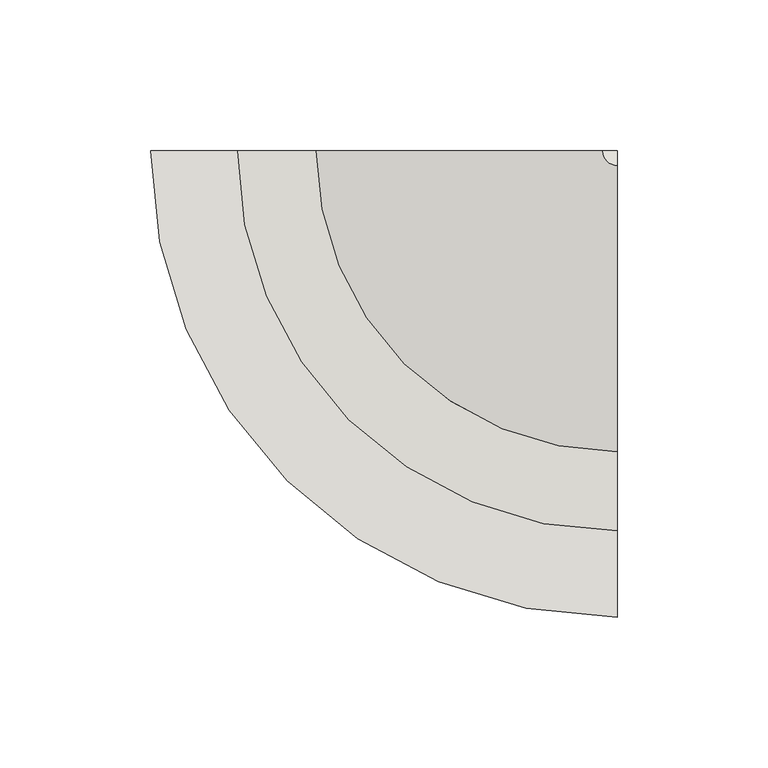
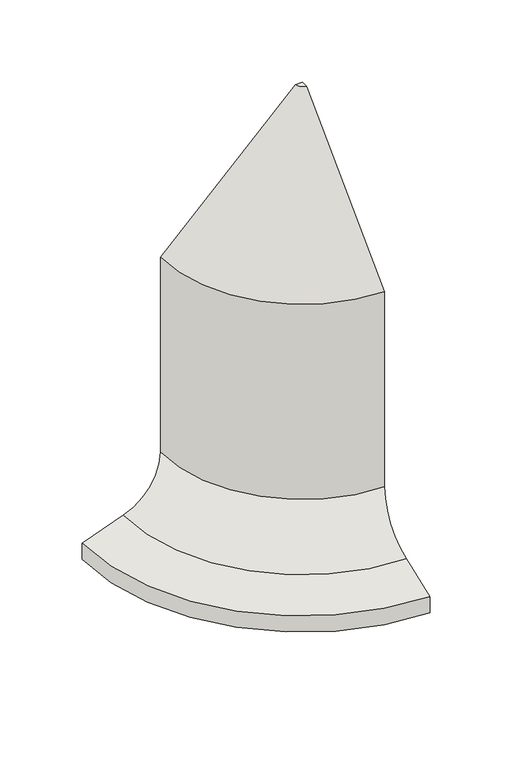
"""IFC4 building model written with IfcOpenShell, lengths in millimetres: wall geometry, GM_ST_UN_ACO kerb SS outside corner_ACO : S/S H300."""

import ifcopenshell
import ifcopenshell.guid

model = None  # the IFC model being written
_history = None  # IfcOwnerHistory: only IFC2X3 demands one
_inside = {}  # id of a spatial element -> (the spatial element, [elements in it])
_under = {}  # id of a project, library or spatial element -> (it, [spatial elements below it])
_declared = {}  # id of a project -> (the project, [libraries it declares])
_typed = {}  # id of a type object -> (the type object, [elements of that type])
_made_of = {}  # id of a material, layer set ... -> (it, [elements and type objects made of it])


def new_model(schema):
    """Start an empty IFC model of exactly this schema.

    Asked for "IFC4X3", IfcOpenShell would pick the latest addendum, in which some entities
    have other attributes; the version numbers below select the first issue.
    IFC2X3 requires an IfcOwnerHistory on every rooted entity: one is made here for all.
    """
    global model, _history
    if schema == "IFC4X3":
        model = ifcopenshell.file(schema_version=(4, 3, 0, 0))
    else:
        model = ifcopenshell.file(schema=schema)
    _inside.clear()
    _under.clear()
    _declared.clear()
    _typed.clear()
    _made_of.clear()
    _history = None
    if model.schema == "IFC2X3":
        org = make("IfcOrganization", Name="unknown")
        user = make(
            "IfcPersonAndOrganization",
            ThePerson=make("IfcPerson", FamilyName="unknown"),
            TheOrganization=org,
        )
        app = make(
            "IfcApplication",
            ApplicationDeveloper=org,
            Version="unknown",
            ApplicationFullName="unknown",
            ApplicationIdentifier="unknown",
        )
        _history = make(
            "IfcOwnerHistory",
            OwningUser=user,
            OwningApplication=app,
            ChangeAction="ADDED",
            CreationDate=0,
        )
    return model


def make(cls, **values):
    """One entity of the class cls with the attributes given. An attribute that is None is left unset."""
    return model.create_entity(
        cls, **{name: value for name, value in values.items() if value is not None}
    )


def rooted(cls, **values):
    """An entity with a GlobalId (a new one), such as an element, a storey or a relation."""
    return make(cls, GlobalId=ifcopenshell.guid.new(), OwnerHistory=_history, **values)


def si_unit(unit_type, name, prefix=None):
    """IfcSIUnit, for example si_unit("LENGTHUNIT", "METRE", prefix="MILLI")."""
    return make("IfcSIUnit", UnitType=unit_type, Prefix=prefix, Name=name)


def assignment(units):
    """IfcUnitAssignment: the units of a project."""
    return None if units is None else make("IfcUnitAssignment", Units=units)


def point(xyz):
    """IfcCartesianPoint."""
    return None if xyz is None else make("IfcCartesianPoint", Coordinates=xyz)


def direction(xyz):
    """IfcDirection."""
    return None if xyz is None else make("IfcDirection", DirectionRatios=xyz)


def frame(location, z_axis=None, x_axis=None):
    """IfcAxis2Placement3D, a coordinate frame: its origin and axes. An axis left out is left unset."""
    return make(
        "IfcAxis2Placement3D",
        Location=point(location),
        Axis=direction(z_axis),
        RefDirection=direction(x_axis),
    )


def origin():
    """The frame at (0, 0, 0) with its axes left unset."""
    return frame((0.0, 0.0, 0.0))


def place(relative_to, where):
    """IfcLocalPlacement: puts the frame where relative to a parent placement (None: the world)."""
    return make(
        "IfcLocalPlacement", PlacementRelTo=relative_to, RelativePlacement=where
    )


def context(
    kind, dimensions, precision=None, world=None, true_north=None, identifier=None
):
    """IfcGeometricRepresentationContext, for example the 3D "Model" context."""
    return make(
        "IfcGeometricRepresentationContext",
        ContextIdentifier=identifier,
        ContextType=kind,
        CoordinateSpaceDimension=dimensions,
        Precision=precision,
        WorldCoordinateSystem=world,
        TrueNorth=true_north,
    )


def project(units=None, contexts=None):
    """IfcProject with its units and contexts."""
    return rooted(
        "IfcProject",
        Name="project",
        RepresentationContexts=contexts,
        UnitsInContext=assignment(units),
    )


def spatial(cls, under=None, at=None, **own):
    """A site, building, storey or space (cls), placed at a placement, below another one or the project."""
    s = rooted(cls, ObjectPlacement=at, **own)
    if under is not None:
        _under.setdefault(under.id(), (under, []))[1].append(s)
    return s


def polyline(points):
    """IfcPolyline through the points."""
    return make("IfcPolyline", Points=[point(p) for p in points])


def circle_curve(where, radius):
    """IfcCircle in the frame where."""
    return make("IfcCircle", Position=where, Radius=radius)


def ellipse_curve(where, semi_axis1, semi_axis2):
    """IfcEllipse in the frame where."""
    return make(
        "IfcEllipse", Position=where, SemiAxis1=semi_axis1, SemiAxis2=semi_axis2
    )


def trimmed(basis, trim1, trim2, sense, master):
    """IfcTrimmedCurve: the piece of a basis curve between two trims."""
    return make(
        "IfcTrimmedCurve",
        BasisCurve=basis,
        Trim1=trim1,
        Trim2=trim2,
        SenseAgreement=sense,
        MasterRepresentation=master,
    )


def shape(context_of_items, identifier, shape_type, items):
    """IfcShapeRepresentation: the items that make up one representation, for example the "Body"."""
    return make(
        "IfcShapeRepresentation",
        ContextOfItems=context_of_items,
        RepresentationIdentifier=identifier,
        RepresentationType=shape_type,
        Items=items,
    )


def source(mapping_origin, context_of_items, identifier, shape_type, items):
    """IfcRepresentationMap: a shape defined once, which mapped items show again and again."""
    return make(
        "IfcRepresentationMap",
        MappingOrigin=mapping_origin,
        MappedRepresentation=shape(context_of_items, identifier, shape_type, items),
    )


def transform(
    local_origin,
    x_axis=None,
    y_axis=None,
    z_axis=None,
    scale=None,
    scale2=None,
    scale3=None,
    uniform=True,
):
    """IfcCartesianTransformationOperator3D, or its non-uniform kind. x_axis, y_axis, z_axis: its Axis1, 2, 3."""
    if uniform:
        return make(
            "IfcCartesianTransformationOperator3D",
            Axis1=direction(x_axis),
            Axis2=direction(y_axis),
            LocalOrigin=point(local_origin),
            Scale=scale,
            Axis3=direction(z_axis),
        )
    return make(
        "IfcCartesianTransformationOperator3DnonUniform",
        Axis1=direction(x_axis),
        Axis2=direction(y_axis),
        LocalOrigin=point(local_origin),
        Scale=scale,
        Axis3=direction(z_axis),
        Scale2=scale2,
        Scale3=scale3,
    )


def mapped(mapping_source, mapping_target):
    """IfcMappedItem: shows the shape of a source again, moved by a transform."""
    return make(
        "IfcMappedItem", MappingSource=mapping_source, MappingTarget=mapping_target
    )


def made_of(thing, what):
    """Note that an element or type object is made of a material, layer set ...; save() writes the relation."""
    if what is not None:
        _made_of.setdefault(what.id(), (what, []))[1].append(thing)
    return thing


def element(
    cls,
    number,
    at=None,
    inside=None,
    cuts=None,
    type_object=None,
    material=None,
    context=None,
    identifier="Body",
    shape_type=None,
    held_by="IfcProductDefinitionShape",
    body=None,
    shapes=None,
    **own,
):
    """One element of the class cls, such as IfcWall. Its Tag is "e" and its number.

    at: its placement. inside: the storey or other place that contains it. cuts: it is an
    opening in that element (IfcRelVoidsElement). A single representation is given by context,
    identifier, shape_type and body (its items); several are given by shapes. held_by: the class
    of the entity that holds the representations. save() writes the other relations.
    """
    e = rooted(cls, Tag="e%d" % number, ObjectPlacement=at, **own)
    if body is not None:
        shapes = [shape(context, identifier, shape_type, body)]
    if shapes is not None:
        e.Representation = make(held_by, Representations=shapes)
    if inside is not None:
        _inside.setdefault(inside.id(), (inside, []))[1].append(e)
    if cuts is not None:
        rooted(
            "IfcRelVoidsElement", RelatingBuildingElement=cuts, RelatedOpeningElement=e
        )
    if type_object is not None:
        _typed.setdefault(type_object.id(), (type_object, []))[1].append(e)
    return made_of(e, material)


def aggregate(whole, parts):
    """IfcRelAggregates: a whole, such as a stair, and the parts it consists of."""
    return rooted("IfcRelAggregates", RelatingObject=whole, RelatedObjects=parts)


def save(model, path):
    """Write the relations noted so far, then the file.

    IfcRelAggregates (storeys below a building ...), IfcRelContainedInSpatialStructure (elements
    in a storey), IfcRelDefinesByType, IfcRelAssociatesMaterial and IfcRelDeclares: one each for
    every whole, place, type object, material and project.
    """
    for whole, parts in _under.values():
        aggregate(whole, parts)
    for where, things in _inside.values():
        rooted(
            "IfcRelContainedInSpatialStructure",
            RelatedElements=things,
            RelatingStructure=where,
        )
    for kind, things in _typed.values():
        rooted("IfcRelDefinesByType", RelatedObjects=things, RelatingType=kind)
    for what, things in _made_of.values():
        rooted("IfcRelAssociatesMaterial", RelatedObjects=things, RelatingMaterial=what)
    for by, libraries in _declared.values():
        rooted("IfcRelDeclares", RelatingContext=by, RelatedDefinitions=libraries)
    model.write(path)


def plane_surface(at):
    """IfcPlane: the flat surface through the origin of the frame at, square to its z axis."""
    return make("IfcPlane", Position=at)


def cylinder_surface(at, radius):
    """IfcCylindricalSurface: all points at the distance radius from the z axis of the frame at."""
    return make("IfcCylindricalSurface", Position=at, Radius=radius)


def revolved_surface(curve, axis_point, axis_direction):
    """IfcSurfaceOfRevolution: the curve turned about the line through axis_point along axis_direction."""
    return make(
        "IfcSurfaceOfRevolution",
        SweptCurve=make("IfcArbitraryOpenProfileDef", ProfileType="CURVE", Curve=curve),
        AxisPosition=make("IfcAxis1Placement", Location=point(axis_point), Axis=direction(axis_direction)),
    )


def advanced_brep(points, edges, surfaces, faces):
    """IfcAdvancedBrep: a solid bounded by faces that lie on surfaces and meet in shared edges.

    An edge is (start, end): straight between two places in points (the first is 0);
    or (start, end, curve); or (start, end, curve, False) where it runs against its curve.
    A face is (place in surfaces, loops), or (place, loops, False) where it looks against
    its surface's normal. A loop lists edges by number (the first is 1), with a minus sign
    where the edge is run from its end to its start. The first loop is the outer one.
    """
    corners = [point(p) for p in points]
    vertices = [make("IfcVertexPoint", VertexGeometry=c) for c in corners]
    made = []
    for start, end, *more in edges:
        made.append(
            make(
                "IfcEdgeCurve",
                EdgeStart=vertices[start],
                EdgeEnd=vertices[end],
                EdgeGeometry=more[0] if more else make("IfcPolyline", Points=[corners[start], corners[end]]),
                SameSense=more[1] if len(more) > 1 else True,
            )
        )
    hull = []
    for where, loops, *sense in faces:
        bounds = []
        for j, loop in enumerate(loops):
            ring = [make("IfcOrientedEdge", EdgeElement=made[abs(k) - 1], Orientation=k > 0) for k in loop]
            bounds.append(
                make(
                    "IfcFaceOuterBound" if j == 0 else "IfcFaceBound",
                    Bound=make("IfcEdgeLoop", EdgeList=ring),
                    Orientation=True,
                )
            )
        hull.append(make("IfcAdvancedFace", Bounds=bounds, FaceSurface=surfaces[where], SameSense=sense[0] if sense else True))
    return make("IfcAdvancedBrep", Outer=make("IfcClosedShell", CfsFaces=hull))


def wall_866a5f13(model_context):
    return source(origin(), model_context, "Body", "AdvancedBrep", [
        advanced_brep(
        [(-154.9291966, 0.0, 0.0), (-154.9291966, 0.0, 11.977476), (-126.1987698, 0.0, 22.4886008), (-99.9420231, 0.0, 60.0535178), (-99.9420231, 0.0, 204.9637441), (-4.952669, 0.0, 299.9530982), (0.0, 0.0, 299.9530982), (0.0, 0.0, 0.0), (0.0, -154.9291966, 0.0), (0.0, -4.952669, 299.9530982), (0.0, -99.9420231, 204.9637441), (0.0, -99.9420231, 60.0535178), (0.0, -126.1987698, 22.4886008), (0.0, -154.9291966, 11.977476)],
        [
            (0, 1),
            (1, 2),
            (2, 3, circle_curve(frame((-139.9420231, 0.0, 60.0535178), z_axis=(0.0, -1.0000000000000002, 0.0), x_axis=(1.0000000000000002, 0.0, 0.0)), 40.0)),
            (3, 4),
            (4, 5),
            (5, 6),
            (6, 7),
            (7, 0),
            (8, 7),
            (6, 9),
            (9, 10),
            (10, 11),
            (11, 12, circle_curve(frame((0.0, -139.9420231, 60.0535178), z_axis=(-1.0000000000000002, 0.0, 0.0), x_axis=(0.0, 1.0000000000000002, 0.0)), 40.0)),
            (12, 13),
            (13, 8),
            (13, 1, circle_curve(frame((0.0, 0.0, 11.977476), z_axis=(0.0, 0.0, -1.0), x_axis=(-1.0000000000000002, 0.0, 0.0)), 154.9291966)),
            (0, 8, circle_curve(frame((0.0, 0.0, 0.0), z_axis=(0.0, 0.0, 1.0), x_axis=(-1.0000000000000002, 0.0, 0.0)), 154.9291966)),
            (12, 2, circle_curve(frame((0.0, 0.0, 22.4886008), z_axis=(0.0, 0.0, -1.0), x_axis=(-1.0000000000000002, 0.0, 0.0)), 126.1987698)),
            (11, 3, circle_curve(frame((0.0, 0.0, 60.0535178), z_axis=(0.0, 0.0, -1.0), x_axis=(-1.0000000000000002, 0.0, 0.0)), 99.9420231)),
            (10, 4, circle_curve(frame((0.0, 0.0, 204.9637441), z_axis=(0.0, 0.0, -1.0), x_axis=(-1.0000000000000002, 0.0, 0.0)), 99.9420231)),
            (9, 5, circle_curve(frame((0.0, 0.0, 299.9530982), z_axis=(0.0, 0.0, -1.0), x_axis=(-1.0000000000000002, 0.0, 0.0)), 4.952669)),
        ],
        [
            plane_surface(frame((0.0, 0.0, 840.0), z_axis=(0.0, 1.0, 0.0), x_axis=(-1.0, 0.0, 0.0))),
            plane_surface(frame((0.0, 0.0, 840.0), z_axis=(1.0, 0.0, 0.0), x_axis=(0.0, -1.0, 0.0))),
            cylinder_surface(frame((0.0, 0.0, 840.0), z_axis=(0.0, 0.0, 1.0), x_axis=(-1.0000000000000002, 0.0, 0.0)), 154.9291966),
            revolved_surface(polyline([(-154.9291966, 0.0, 11.977476), (-126.1987698, 0.0, 22.4886008)]), (0.0, 0.0, 840.0), (0.0, 0.0, 1.0)),
            revolved_surface(trimmed(ellipse_curve(frame((-139.9420231, 0.0, 60.0535178), z_axis=(0.0, -1.0000000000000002, 0.0), x_axis=(1.0000000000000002, 0.0, 0.0)), 40.0, 40.0), [point((-126.1987698, 0.0, 22.4886008))], [point((-99.9420231, 0.0, 60.0535178))], True, "CARTESIAN"), (0.0, 0.0, 840.0), (0.0, 0.0, 1.0)),
            cylinder_surface(frame((0.0, 0.0, 840.0), z_axis=(0.0, 0.0, 1.0), x_axis=(-1.0000000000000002, 0.0, 0.0)), 99.9420231),
            revolved_surface(polyline([(-99.9420231, 0.0, 204.9637441), (-4.952669, 0.0, 299.9530982)]), (0.0, 0.0, 840.0), (0.0, 0.0, 1.0)),
            plane_surface(frame((0.0, 0.0, 299.9530982), z_axis=(0.0, 0.0, 1.0), x_axis=(-1.0, 0.0, 0.0))),
            plane_surface(frame((0.0, 0.0, 0.0), z_axis=(0.0, 0.0, -1.0), x_axis=(-1.0, 0.0, 0.0))),
        ],
        [
            (0, [[1, 2, 3, 4, 5, 6, 7, 8]]),
            (1, [[9, -7, 10, 11, 12, 13, 14, 15]]),
            (2, [[16, -1, 17, -15]]),
            (3, [[18, -2, -16, -14]]),
            (4, [[19, -3, -18, -13]]),
            (5, [[20, -4, -19, -12]]),
            (6, [[21, -5, -20, -11]]),
            (7, [[-6, -21, -10]]),
            (8, [[-17, -8, -9]]),
        ],
    ),
    ])


if __name__ == "__main__":
    model = new_model("IFC4")
    model_context = context("Model", 3, world=origin())
    ifc_project = project(units=[si_unit("LENGTHUNIT", "METRE", prefix="MILLI")], contexts=[model_context])
    site = spatial("IfcSite", under=ifc_project)
    building = spatial("IfcBuilding", under=site)
    placement = place(None, origin())
    wall_shape = wall_866a5f13(model_context)
    element("IfcWall", 1, ObjectType="GM_ST_UN_ACO kerb SS outside corner_ACO : S/S H300", at=placement, inside=building, context=model_context, shape_type="MappedRepresentation", body=[
        mapped(wall_shape, transform((0.0, 0.0, 0.0), x_axis=(1.0, 0.0, 0.0), y_axis=(0.0, 1.0, 0.0), z_axis=(0.0, 0.0, 1.0))),
    ])
    save(model, "model.ifc")
